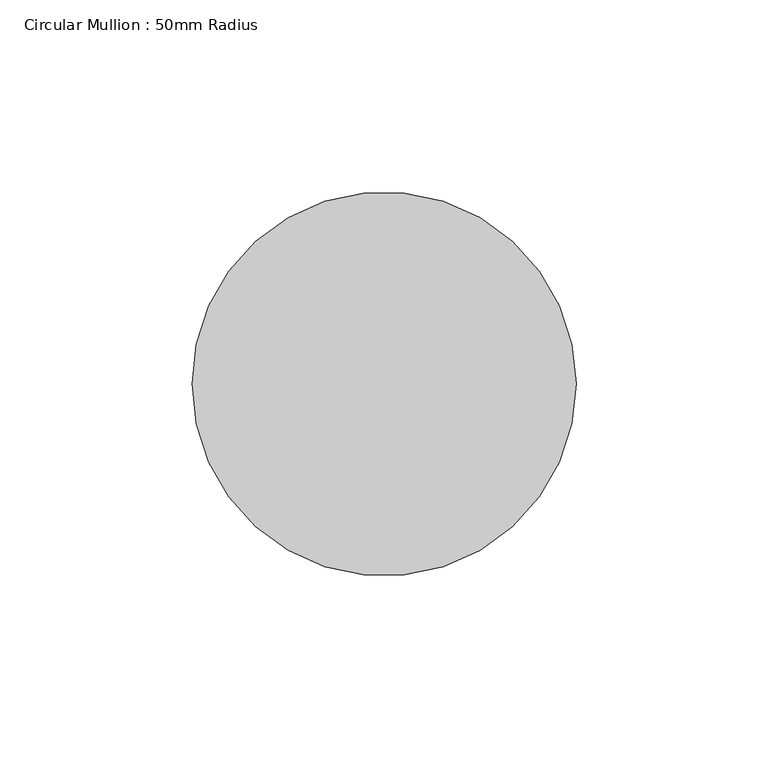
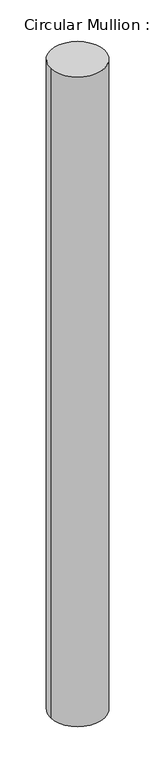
"""IFC4 building model written with IfcOpenShell, lengths in millimetres: member geometry, Circular Mullion : 50mm Radius."""

from ifc_helpers import new_model, si_unit, point, frame, frame_2d, origin, place, context, project, spatial, circle_curve, trimmed, segment, composite_curve, outline, extrude, source, transform, mapped, element, save


def circular_mullion_50mm_radius_f5e74aa9(model_context):
    return source(origin(), model_context, "Body", "SweptSolid", [
        extrude(outline(composite_curve([segment(trimmed(circle_curve(frame_2d((-50.0, 0.0)), 50.0), [point((0.0, 0.0))], [point((-100.0, 0.0))], False, "CARTESIAN"), True, "CONTINUOUS"), segment(trimmed(circle_curve(frame_2d((-50.0, 0.0)), 50.0), [point((-100.0, 0.0))], [point((0.0, 0.0))], False, "CARTESIAN"), True, "CONTINUOUS")], self_intersect=False)), frame((0.0, 0.0, -1271.2125833), z_axis=(0.0, 0.0, 1.0), x_axis=(1.0, 0.0, 0.0)), (0.0, 0.0, 1.0), 1271.2125833),
    ])


if __name__ == "__main__":
    model = new_model("IFC4")
    model_context = context("Model", 3, world=origin())
    ifc_project = project(units=[si_unit("LENGTHUNIT", "METRE", prefix="MILLI")], contexts=[model_context])
    site = spatial("IfcSite", under=ifc_project)
    building = spatial("IfcBuilding", under=site)
    placement = place(None, origin())
    circular_mullion_50mm_radius_shape = circular_mullion_50mm_radius_f5e74aa9(model_context)
    element("IfcMember", 1, ObjectType="Circular Mullion : 50mm Radius", at=placement, inside=building, context=model_context, shape_type="MappedRepresentation", body=[
        mapped(circular_mullion_50mm_radius_shape, transform((0.0, 0.0, 0.0), x_axis=(1.0, 0.0, 0.0), y_axis=(0.0, 1.0, 0.0), z_axis=(0.0, 0.0, 1.0))),
    ])
    save(model, "model.ifc")
